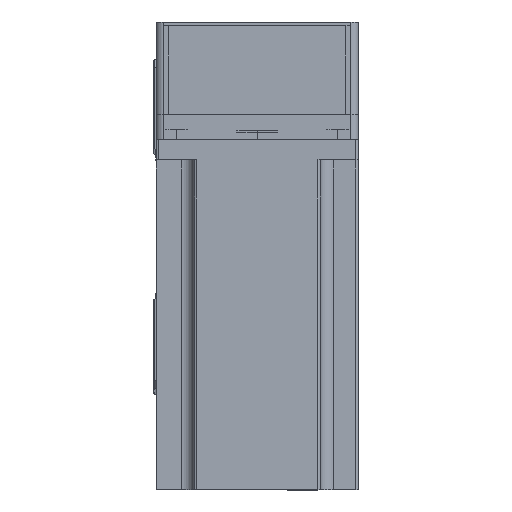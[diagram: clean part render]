
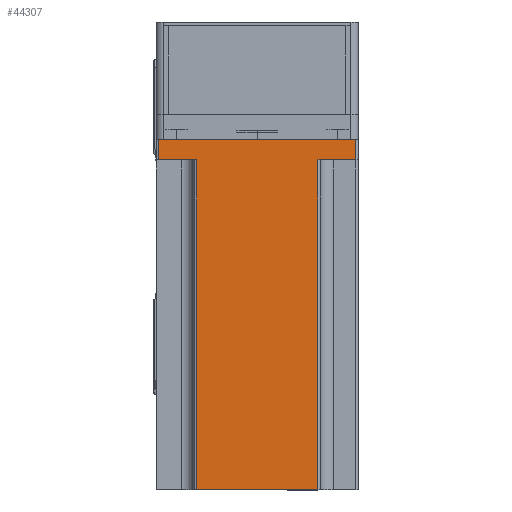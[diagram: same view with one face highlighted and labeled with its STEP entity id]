
A CAD part, top view. The second image highlights one B-rep face of the part: STEP entity #44307.
In plain terms, the highlighted planar face has unit normal (0, 0, 1) as drawn and (0, 1, 0) by its records, which use the part's own axes.
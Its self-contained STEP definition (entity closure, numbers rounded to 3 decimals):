
#164 = ORIENTED_EDGE ( 'NONE', *, *, #43694, .F. ) ;
#238 = VERTEX_POINT ( 'NONE', #24524 ) ;
#459 = CARTESIAN_POINT ( 'NONE',  ( -24., 40., 138.3 ) ) ;
#3569 = CARTESIAN_POINT ( 'NONE',  ( -39., 40., 0. ) ) ;
#3583 = CARTESIAN_POINT ( 'NONE',  ( -25., 40., 8. ) ) ;
#3727 = EDGE_CURVE ( 'NONE', #33589, #29846, #36885, .T. ) ;
#4446 = EDGE_CURVE ( 'NONE', #238, #45708, #13931, .T. ) ;
#4957 = DIRECTION ( 'NONE',  ( 0., 0., -1. ) ) ;
#4998 = EDGE_LOOP ( 'NONE', ( #20106, #22931, #31979, #10627, #164, #46114, #50833, #13119 ) ) ;
#5034 = CARTESIAN_POINT ( 'NONE',  ( 40., 40., 138.3 ) ) ;
#5151 = VERTEX_POINT ( 'NONE', #6040 ) ;
#5554 = CARTESIAN_POINT ( 'NONE',  ( -24., 40., 8. ) ) ;
#6040 = CARTESIAN_POINT ( 'NONE',  ( -39., 40., 8. ) ) ;
#7861 = VECTOR ( 'NONE', #49774, 1000. ) ;
#8081 = DIRECTION ( 'NONE',  ( 0., 0., -1. ) ) ;
#8876 = PLANE ( 'NONE',  #36968 ) ;
#9235 = DIRECTION ( 'NONE',  ( 1., 0., 0. ) ) ;
#10627 = ORIENTED_EDGE ( 'NONE', *, *, #17703, .T. ) ;
#12416 = CARTESIAN_POINT ( 'NONE',  ( 25., 40., 8. ) ) ;
#13119 = ORIENTED_EDGE ( 'NONE', *, *, #22617, .T. ) ;
#13931 = LINE ( 'NONE', #34647, #16525 ) ;
#14739 = VECTOR ( 'NONE', #51133, 1000. ) ;
#16525 = VECTOR ( 'NONE', #30439, 1000. ) ;
#17703 = EDGE_CURVE ( 'NONE', #33589, #27502, #36803, .T. ) ;
#17898 = CARTESIAN_POINT ( 'NONE',  ( 24., 40., 8. ) ) ;
#18272 = EDGE_CURVE ( 'NONE', #44712, #238, #40629, .T. ) ;
#18277 = LINE ( 'NONE', #12416, #29353 ) ;
#20106 = ORIENTED_EDGE ( 'NONE', *, *, #31383, .T. ) ;
#20603 = LINE ( 'NONE', #3583, #40182 ) ;
#21303 = CARTESIAN_POINT ( 'NONE',  ( 24., 40., 138.3 ) ) ;
#22190 = CARTESIAN_POINT ( 'NONE',  ( 40., 40., 138.3 ) ) ;
#22617 = EDGE_CURVE ( 'NONE', #45708, #5151, #42423, .T. ) ;
#22931 = ORIENTED_EDGE ( 'NONE', *, *, #37767, .T. ) ;
#23930 = LINE ( 'NONE', #24187, #35017 ) ;
#24033 = DIRECTION ( 'NONE',  ( 1., 0., 0. ) ) ;
#24187 = CARTESIAN_POINT ( 'NONE',  ( -24., 40., 138.3 ) ) ;
#24524 = CARTESIAN_POINT ( 'NONE',  ( 39., 40., 0. ) ) ;
#25692 = VECTOR ( 'NONE', #4957, 1000. ) ;
#27502 = VERTEX_POINT ( 'NONE', #17898 ) ;
#28328 = DIRECTION ( 'NONE',  ( 0., 0., 1. ) ) ;
#28663 = CARTESIAN_POINT ( 'NONE',  ( 39., 40., 8. ) ) ;
#29353 = VECTOR ( 'NONE', #37370, 1000. ) ;
#29521 = VECTOR ( 'NONE', #8081, 1000. ) ;
#29846 = VERTEX_POINT ( 'NONE', #459 ) ;
#29935 = CARTESIAN_POINT ( 'NONE',  ( 24., 40., 138.3 ) ) ;
#30439 = DIRECTION ( 'NONE',  ( -1., 0., 0. ) ) ;
#31383 = EDGE_CURVE ( 'NONE', #5151, #36831, #20603, .T. ) ;
#31979 = ORIENTED_EDGE ( 'NONE', *, *, #3727, .F. ) ;
#33589 = VERTEX_POINT ( 'NONE', #21303 ) ;
#34214 = DIRECTION ( 'NONE',  ( 0., -1., 0. ) ) ;
#34647 = CARTESIAN_POINT ( 'NONE',  ( 40., 40., 0. ) ) ;
#35017 = VECTOR ( 'NONE', #28328, 1000. ) ;
#36803 = LINE ( 'NONE', #29935, #25692 ) ;
#36831 = VERTEX_POINT ( 'NONE', #5554 ) ;
#36885 = LINE ( 'NONE', #22190, #14739 ) ;
#36968 = AXIS2_PLACEMENT_3D ( 'NONE', #5034, #34214, #9235 ) ;
#37238 = CARTESIAN_POINT ( 'NONE',  ( 39., 40., 138.3 ) ) ;
#37370 = DIRECTION ( 'NONE',  ( -1., 0., 0. ) ) ;
#37767 = EDGE_CURVE ( 'NONE', #36831, #29846, #23930, .T. ) ;
#39059 = FACE_OUTER_BOUND ( 'NONE', #4998, .T. ) ;
#40182 = VECTOR ( 'NONE', #24033, 1000. ) ;
#40629 = LINE ( 'NONE', #37238, #29521 ) ;
#42423 = LINE ( 'NONE', #45611, #7861 ) ;
#43694 = EDGE_CURVE ( 'NONE', #44712, #27502, #18277, .T. ) ;
#44307 = ADVANCED_FACE ( 'NONE', ( #39059 ), #8876, .F. ) ;
#44712 = VERTEX_POINT ( 'NONE', #28663 ) ;
#45611 = CARTESIAN_POINT ( 'NONE',  ( -39., 40., 138.3 ) ) ;
#45708 = VERTEX_POINT ( 'NONE', #3569 ) ;
#46114 = ORIENTED_EDGE ( 'NONE', *, *, #18272, .T. ) ;
#49774 = DIRECTION ( 'NONE',  ( 0., 0., 1. ) ) ;
#50833 = ORIENTED_EDGE ( 'NONE', *, *, #4446, .T. ) ;
#51133 = DIRECTION ( 'NONE',  ( -1., 0., 0. ) ) ;
